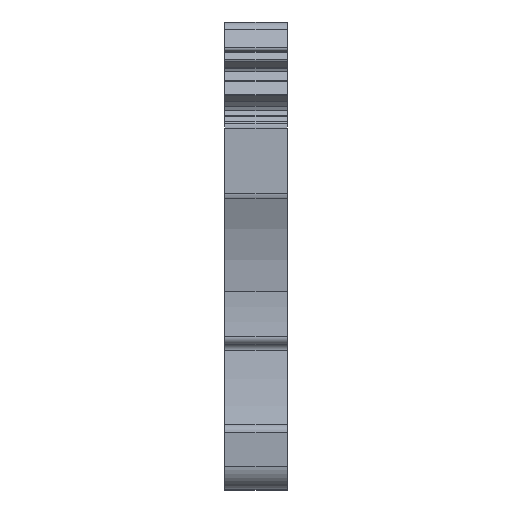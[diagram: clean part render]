
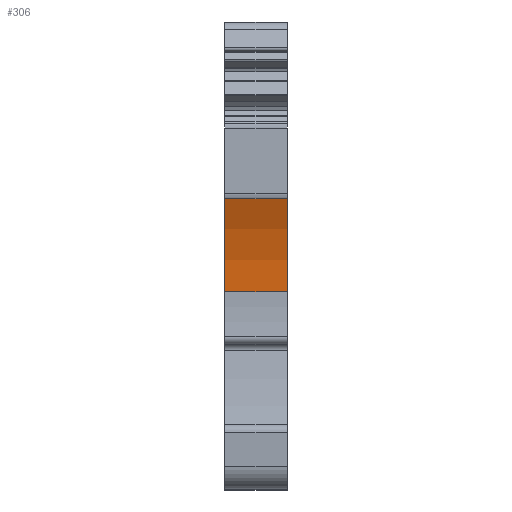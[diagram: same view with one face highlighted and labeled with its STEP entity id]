
A CAD part, top view. The second image highlights one B-rep face of the part: STEP entity #306.
In plain terms, the highlighted cylindrical face has radius 20 mm (diameter 40 mm), a partial arc.
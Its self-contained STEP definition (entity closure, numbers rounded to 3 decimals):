
#306 = ADVANCED_FACE( '', ( #865 ), #866, .F. );
#865 = FACE_OUTER_BOUND( '', #1517, .T. );
#866 = CYLINDRICAL_SURFACE( '', #1518, 20. );
#1517 = EDGE_LOOP( '', ( #3834, #3835, #3836, #3837 ) );
#1518 = AXIS2_PLACEMENT_3D( '', #3838, #3839, #3840 );
#3834 = ORIENTED_EDGE( '', *, *, #4626, .T. );
#3835 = ORIENTED_EDGE( '', *, *, #5371, .F. );
#3836 = ORIENTED_EDGE( '', *, *, #5083, .T. );
#3837 = ORIENTED_EDGE( '', *, *, #5370, .T. );
#3838 = CARTESIAN_POINT( '', ( 0., 8.79, 56.955 ) );
#3839 = DIRECTION( '', ( -1., 0., 0. ) );
#3840 = DIRECTION( '', ( 0., 0.415, -0.91 ) );
#4626 = EDGE_CURVE( '', #5649, #5647, #5650, .T. );
#5083 = EDGE_CURVE( '', #6480, #6478, #6481, .T. );
#5370 = EDGE_CURVE( '', #6478, #5649, #6919, .T. );
#5371 = EDGE_CURVE( '', #6480, #5647, #6920, .T. );
#5647 = VERTEX_POINT( '', #7272 );
#5649 = VERTEX_POINT( '', #7274 );
#5650 = CIRCLE( '', #7275, 20. );
#6478 = VERTEX_POINT( '', #8402 );
#6480 = VERTEX_POINT( '', #8404 );
#6481 = CIRCLE( '', #8405, 20. );
#6919 = LINE( '', #9058, #9059 );
#6920 = LINE( '', #9060, #9061 );
#7272 = CARTESIAN_POINT( '', ( 5.1, 17.092, 38.76 ) );
#7274 = CARTESIAN_POINT( '', ( 5.1, 9.45, 36.966 ) );
#7275 = AXIS2_PLACEMENT_3D( '', #9394, #9395, #9396 );
#8402 = CARTESIAN_POINT( '', ( 0., 9.45, 36.966 ) );
#8404 = CARTESIAN_POINT( '', ( 0., 17.092, 38.76 ) );
#8405 = AXIS2_PLACEMENT_3D( '', #10209, #10210, #10211 );
#9058 = CARTESIAN_POINT( '', ( 0., 9.45, 36.966 ) );
#9059 = VECTOR( '', #10640, 1. );
#9060 = CARTESIAN_POINT( '', ( 0., 17.092, 38.76 ) );
#9061 = VECTOR( '', #10641, 1. );
#9394 = CARTESIAN_POINT( '', ( 5.1, 8.79, 56.955 ) );
#9395 = DIRECTION( '', ( 1., 0., 0. ) );
#9396 = DIRECTION( '', ( 0., 0.415, -0.91 ) );
#10209 = CARTESIAN_POINT( '', ( 0., 8.79, 56.955 ) );
#10210 = DIRECTION( '', ( -1., 0., 0. ) );
#10211 = DIRECTION( '', ( 0., 0.415, -0.91 ) );
#10640 = DIRECTION( '', ( 1., 0., 0. ) );
#10641 = DIRECTION( '', ( 1., 0., 0. ) );
